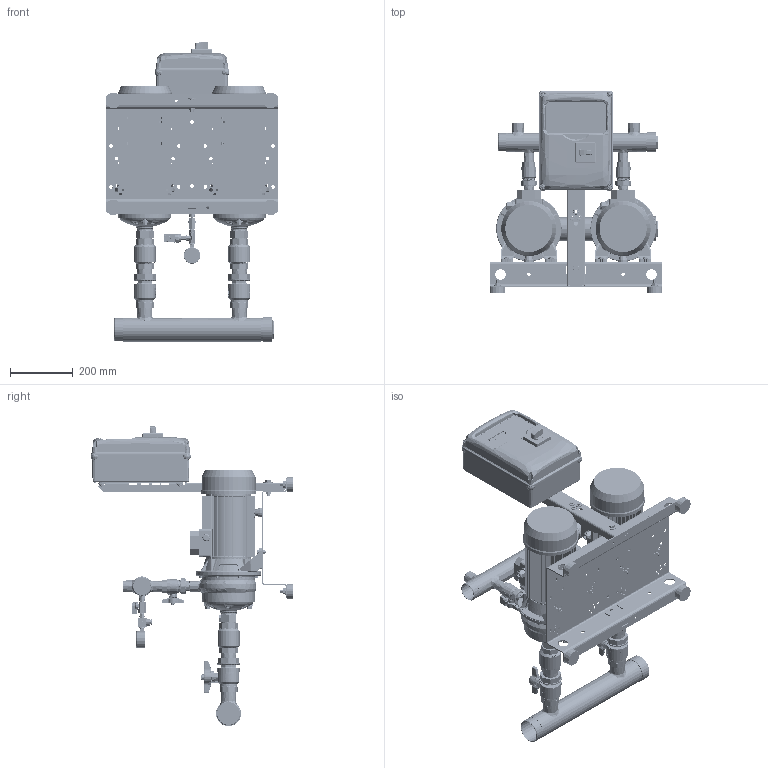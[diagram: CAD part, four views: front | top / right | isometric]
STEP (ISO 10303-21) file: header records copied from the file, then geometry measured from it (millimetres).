
FILE_DESCRIPTION((''),'2;1');
FILE_NAME('2GP_2CDX_200-30_REV5_ASM','2025-02-05T09:01:13',('Utente'),('"Ebara Pumps Europe S.p.A"'),'CREO PARAMETRIC BY PTC INC, 2022124','CREO PARAMETRIC BY PTC INC, 2022124','');
FILE_SCHEMA(('AUTOMOTIVE_DESIGN { 1 0 10303 214 1 1 1 1 }'));
Products named in the file (40): 62508_275562937; CALOTTA_F_A304_DN65_369800821; VAL_INT_MF-B_OTN_CIM346_DN40; VAL_INT_M-F-3_OTN_CIM346_DN40_ASM; VAL-NR-FF-OTN-CIM30-DN40; VAL_NR_F-F_OTN_CIM30_DN40_ASM; NIPPLO-ALIM_OT_DN40_361910052; TAPPO_M_OT_1-2_380000878; 3IEP_2CDX_200-30_IE3; EP_2CDX_200-30_ASM; VAL_INT_MF-B_OTN_CIM346_DN25; VAL_INT_M-F-3_OTN_CIM346_DN25_ASM; RONDEL-P_FE_ZN_UNI6592_M8; DADO_AUTOAGG_M8_ESAG; VITI_TE_ISO4017_M8_L25; 62510_275562942; CALOTTA_F_A304_DN50_369800820; TAPPO-SALVAFIL_D31; VAL_INT_MF_OTN_CIM012_DN8; NIPPLO_OTG_8_380000861; RACC-T_OTG_DN8_380000880; MAN_RAD_D50_10BAR_361600160; BASE_2GP_I300-B300_DNRV; MONTANTE_H600_271472877; PIEDINO_CIL_369650010; RONDEL-P_FE_ZN_UNI6592_M10; DADI_NORM_ISO4032_FE_ZN_M10; RONDEL-P_ZN_UNI6593_M10X30X2-5; VITI_TE_ISO4017_M10_L45; TRAVERSO_MONT_L200_271472882; RONDEL-P_FE_ZN_UNI6593_M6X18X2; RONDEL-P_FE_ZN_UNI6592_M6; VITI_TE_ISO4017_M6_L20; DADI_NORM_ISO4032_FE_ZN_M6; DADO_AUTOAGG_M10_ESAG; DNRV_2P_I300-B300_H600-Q220X300_ASM; COM_EP-PRO_2T_7-5KW_362334215; PG_PVC_D10-5_380000891; TRASD_16BAR_460500024; 2GP_2CDX_200-30_REV5_ASM
Assembly tree (83 placements, depth 3):
  2GP_2CDX_200-30_REV5_ASM
    62508_275562937
    CALOTTA_F_A304_DN65_369800821
    VAL_INT_M-F-3_OTN_CIM346_DN40_ASM  x2
      VAL_INT_MF-B_OTN_CIM346_DN40
    VAL_NR_F-F_OTN_CIM30_DN40_ASM  x2
      VAL-NR-FF-OTN-CIM30-DN40
    NIPPLO-ALIM_OT_DN40_361910052  x2
    TAPPO_M_OT_1-2_380000878  x2
    EP_2CDX_200-30_ASM  x2
      3IEP_2CDX_200-30_IE3
    VAL_INT_M-F-3_OTN_CIM346_DN25_ASM  x2
      VAL_INT_MF-B_OTN_CIM346_DN25
    RONDEL-P_FE_ZN_UNI6592_M8  x4
    DADO_AUTOAGG_M8_ESAG  x4
    VITI_TE_ISO4017_M8_L25  x4
    62510_275562942
    CALOTTA_F_A304_DN50_369800820
    TAPPO-SALVAFIL_D31  x2
    VAL_INT_MF_OTN_CIM012_DN8
    NIPPLO_OTG_8_380000861
    RACC-T_OTG_DN8_380000880
    MAN_RAD_D50_10BAR_361600160
    DNRV_2P_I300-B300_H600-Q220X300_ASM
      BASE_2GP_I300-B300_DNRV
      MONTANTE_H600_271472877
      PIEDINO_CIL_369650010  x4
      RONDEL-P_FE_ZN_UNI6592_M10  x4
      DADI_NORM_ISO4032_FE_ZN_M10  x4
      RONDEL-P_ZN_UNI6593_M10X30X2-5
      VITI_TE_ISO4017_M10_L45
      TRAVERSO_MONT_L200_271472882  x2
      RONDEL-P_FE_ZN_UNI6593_M6X18X2  x8
      RONDEL-P_FE_ZN_UNI6592_M6  x4
      VITI_TE_ISO4017_M6_L20  x4
      DADI_NORM_ISO4032_FE_ZN_M6  x4
      DADO_AUTOAGG_M10_ESAG
    COM_EP-PRO_2T_7-5KW_362334215
    PG_PVC_D10-5_380000891  x3
    TRASD_16BAR_460500024
Bounding box: 550 x 644.45 x 955.12 mm (x, y, z)
Volume: 16168499.2 mm3; surface area: 3732746.7 mm2
Topology: 1351 solids, 1486 shells, 21184 faces, 53983 edges, 35874 vertices
Faces by surface type: plane 14058, cylinder 3261, cone 1308, extrusion 943, bspline 893, torus 608, sphere 111, revolution 2
Entity records: 952530 total; most frequent: CARTESIAN_POINT 304986, ORIENTED_EDGE 80002, DIRECTION 74925, PRESENTATION_STYLE_ASSIGNMENT 51441, STYLED_ITEM 42328, EDGE_CURVE 41055, CURVE_STYLE 38749, VECTOR 30259
